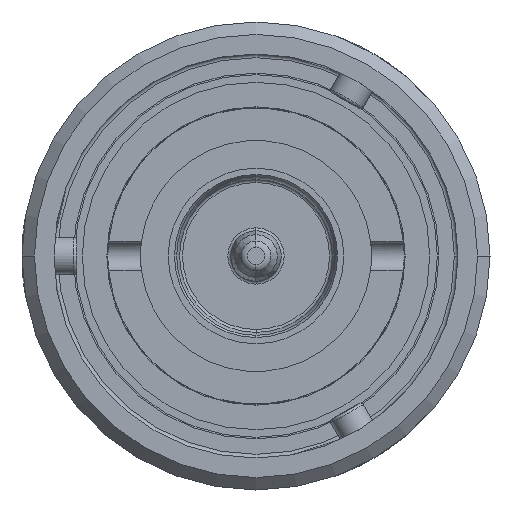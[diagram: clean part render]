
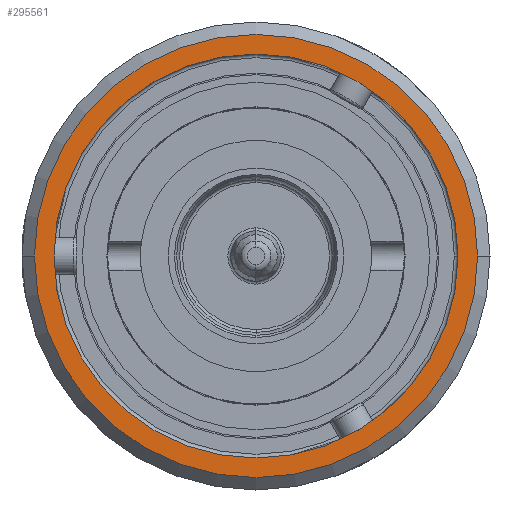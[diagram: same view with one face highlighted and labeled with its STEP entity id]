
A CAD part, left-side view. The second image highlights one B-rep face of the part: STEP entity #295561.
In plain terms, the highlighted planar face has unit normal (-1, 0, 0).
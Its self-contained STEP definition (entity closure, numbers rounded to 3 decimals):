
#85216=CARTESIAN_POINT('',(3.2,0.,0.));
#85217=DIRECTION('',(-1.,0.,0.));
#85218=DIRECTION('',(0.,1.,0.));
#85219=AXIS2_PLACEMENT_3D('',#85216,#85217,#85218);
#85229=CARTESIAN_POINT('',(3.2,0.,0.));
#85230=DIRECTION('',(1.,0.,0.));
#85231=DIRECTION('',(0.,1.,0.));
#85232=AXIS2_PLACEMENT_3D('',#85229,#85230,#85231);
#85234=CARTESIAN_POINT('',(3.2,0.,0.));
#85235=DIRECTION('',(1.,0.,0.));
#85236=DIRECTION('',(0.,1.,0.));
#85237=AXIS2_PLACEMENT_3D('',#85234,#85235,#85236);
#85239=CARTESIAN_POINT('',(3.2,0.,0.));
#85240=DIRECTION('',(-1.,0.,0.));
#85241=DIRECTION('',(0.,1.,0.));
#85242=AXIS2_PLACEMENT_3D('',#85239,#85240,#85241);
#92648=CARTESIAN_POINT('',(3.2,13.81,0.));
#92649=CARTESIAN_POINT('',(3.2,-13.81,0.));
#92650=VERTEX_POINT('',#92648);
#92651=VERTEX_POINT('',#92649);
#92678=CARTESIAN_POINT('',(3.2,15.15,0.));
#92680=VERTEX_POINT('',#92678);
#92682=CARTESIAN_POINT('',(3.2,-15.15,0.));
#92684=VERTEX_POINT('',#92682);
#295546=CARTESIAN_POINT('',(3.2,0.,0.));
#295547=DIRECTION('',(-1.,0.,0.));
#295548=DIRECTION('',(0.,-1.,0.));
#295549=AXIS2_PLACEMENT_3D('',#295546,#295547,#295548);
#295550=PLANE('505',#295549);
#295551=ORIENTED_EDGE('10496',*,*,#295511,.F.);
#295552=ORIENTED_EDGE('10497',*,*,#295534,.T.);
#295553=EDGE_LOOP('505',(#295551,#295552));
#295554=FACE_OUTER_BOUND('505',#295553,.F.);
#295556=ORIENTED_EDGE('10480',*,*,#295555,.F.);
#295558=ORIENTED_EDGE('10479',*,*,#295557,.T.);
#295559=EDGE_LOOP('505',(#295556,#295558));
#295560=FACE_BOUND('505',#295559,.F.);
#85220=CIRCLE('10496',#85219,15.15);
#85233=CIRCLE('10497',#85232,15.15);
#85238=CIRCLE('10480',#85237,13.81);
#85243=CIRCLE('10479',#85242,13.81);
#295511=EDGE_CURVE('10496',#92680,#92684,#85220,.T.);
#295534=EDGE_CURVE('10497',#92680,#92684,#85233,.T.);
#295555=EDGE_CURVE('10480',#92650,#92651,#85238,.T.);
#295557=EDGE_CURVE('10479',#92650,#92651,#85243,.T.);
#295561=ADVANCED_FACE('505',(#295554,#295560),#295550,.T.);
